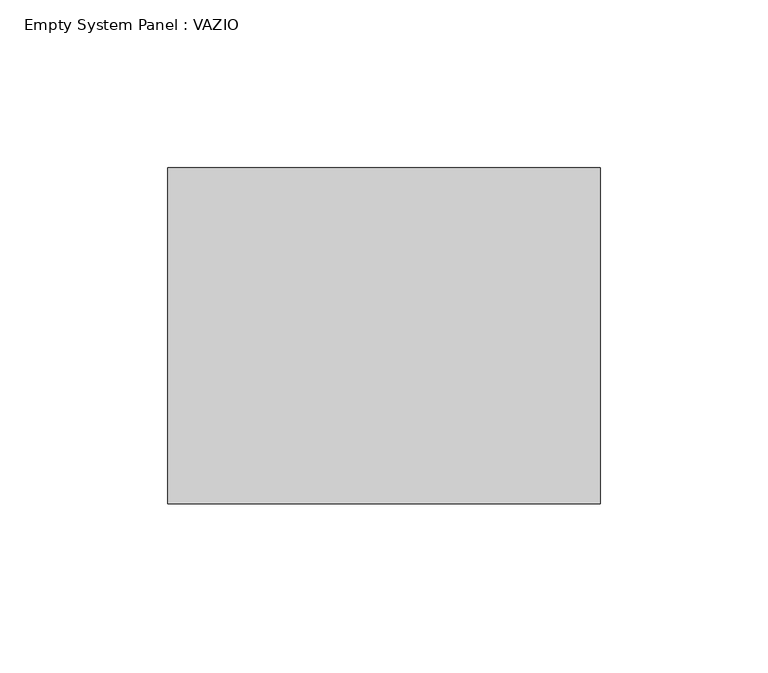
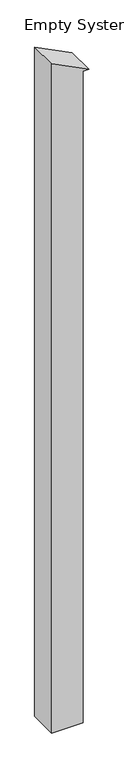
"""IFC4 building model written with IfcOpenShell, lengths in millimetres: plate geometry, Empty System Panel : VAZIO."""

import ifcopenshell
import ifcopenshell.guid

model = None  # the IFC model being written
_history = None  # IfcOwnerHistory: only IFC2X3 demands one
_inside = {}  # id of a spatial element -> (the spatial element, [elements in it])
_under = {}  # id of a project, library or spatial element -> (it, [spatial elements below it])
_declared = {}  # id of a project -> (the project, [libraries it declares])
_typed = {}  # id of a type object -> (the type object, [elements of that type])
_made_of = {}  # id of a material, layer set ... -> (it, [elements and type objects made of it])


def new_model(schema):
    """Start an empty IFC model of exactly this schema.

    Asked for "IFC4X3", IfcOpenShell would pick the latest addendum, in which some entities
    have other attributes; the version numbers below select the first issue.
    IFC2X3 requires an IfcOwnerHistory on every rooted entity: one is made here for all.
    """
    global model, _history
    if schema == "IFC4X3":
        model = ifcopenshell.file(schema_version=(4, 3, 0, 0))
    else:
        model = ifcopenshell.file(schema=schema)
    _inside.clear()
    _under.clear()
    _declared.clear()
    _typed.clear()
    _made_of.clear()
    _history = None
    if model.schema == "IFC2X3":
        org = make("IfcOrganization", Name="unknown")
        user = make(
            "IfcPersonAndOrganization",
            ThePerson=make("IfcPerson", FamilyName="unknown"),
            TheOrganization=org,
        )
        app = make(
            "IfcApplication",
            ApplicationDeveloper=org,
            Version="unknown",
            ApplicationFullName="unknown",
            ApplicationIdentifier="unknown",
        )
        _history = make(
            "IfcOwnerHistory",
            OwningUser=user,
            OwningApplication=app,
            ChangeAction="ADDED",
            CreationDate=0,
        )
    return model


def make(cls, **values):
    """One entity of the class cls with the attributes given. An attribute that is None is left unset."""
    return model.create_entity(
        cls, **{name: value for name, value in values.items() if value is not None}
    )


def rooted(cls, **values):
    """An entity with a GlobalId (a new one), such as an element, a storey or a relation."""
    return make(cls, GlobalId=ifcopenshell.guid.new(), OwnerHistory=_history, **values)


def si_unit(unit_type, name, prefix=None):
    """IfcSIUnit, for example si_unit("LENGTHUNIT", "METRE", prefix="MILLI")."""
    return make("IfcSIUnit", UnitType=unit_type, Prefix=prefix, Name=name)


def assignment(units):
    """IfcUnitAssignment: the units of a project."""
    return None if units is None else make("IfcUnitAssignment", Units=units)


def point(xyz):
    """IfcCartesianPoint."""
    return None if xyz is None else make("IfcCartesianPoint", Coordinates=xyz)


def direction(xyz):
    """IfcDirection."""
    return None if xyz is None else make("IfcDirection", DirectionRatios=xyz)


def frame(location, z_axis=None, x_axis=None):
    """IfcAxis2Placement3D, a coordinate frame: its origin and axes. An axis left out is left unset."""
    return make(
        "IfcAxis2Placement3D",
        Location=point(location),
        Axis=direction(z_axis),
        RefDirection=direction(x_axis),
    )


def frame_2d(location, x_axis=None):
    """IfcAxis2Placement2D, a coordinate frame in the plane: its origin and x axis."""
    return make(
        "IfcAxis2Placement2D", Location=point(location), RefDirection=direction(x_axis)
    )


def origin():
    """The frame at (0, 0, 0) with its axes left unset."""
    return frame((0.0, 0.0, 0.0))


def place(relative_to, where):
    """IfcLocalPlacement: puts the frame where relative to a parent placement (None: the world)."""
    return make(
        "IfcLocalPlacement", PlacementRelTo=relative_to, RelativePlacement=where
    )


def context(
    kind, dimensions, precision=None, world=None, true_north=None, identifier=None
):
    """IfcGeometricRepresentationContext, for example the 3D "Model" context."""
    return make(
        "IfcGeometricRepresentationContext",
        ContextIdentifier=identifier,
        ContextType=kind,
        CoordinateSpaceDimension=dimensions,
        Precision=precision,
        WorldCoordinateSystem=world,
        TrueNorth=true_north,
    )


def project(units=None, contexts=None):
    """IfcProject with its units and contexts."""
    return rooted(
        "IfcProject",
        Name="project",
        RepresentationContexts=contexts,
        UnitsInContext=assignment(units),
    )


def spatial(cls, under=None, at=None, **own):
    """A site, building, storey or space (cls), placed at a placement, below another one or the project."""
    s = rooted(cls, ObjectPlacement=at, **own)
    if under is not None:
        _under.setdefault(under.id(), (under, []))[1].append(s)
    return s


def polyline(points):
    """IfcPolyline through the points."""
    return make("IfcPolyline", Points=[point(p) for p in points])


def circle_curve(where, radius):
    """IfcCircle in the frame where."""
    return make("IfcCircle", Position=where, Radius=radius)


def trimmed(basis, trim1, trim2, sense, master):
    """IfcTrimmedCurve: the piece of a basis curve between two trims."""
    return make(
        "IfcTrimmedCurve",
        BasisCurve=basis,
        Trim1=trim1,
        Trim2=trim2,
        SenseAgreement=sense,
        MasterRepresentation=master,
    )


def segment(curve, same_sense, transition):
    """IfcCompositeCurveSegment."""
    return make(
        "IfcCompositeCurveSegment",
        Transition=transition,
        SameSense=same_sense,
        ParentCurve=curve,
    )


def composite_curve(segments, self_intersect=None):
    """IfcCompositeCurve: segments joined end to end."""
    return make("IfcCompositeCurve", Segments=segments, SelfIntersect=self_intersect)


def outline(outer, holes=None, kind="AREA"):
    """IfcArbitraryClosedProfileDef: a profile drawn as a closed curve; with holes, ...WithVoids."""
    if holes is None:
        return make("IfcArbitraryClosedProfileDef", ProfileType=kind, OuterCurve=outer)
    return make(
        "IfcArbitraryProfileDefWithVoids",
        ProfileType=kind,
        OuterCurve=outer,
        InnerCurves=holes,
    )


def extrude(swept, where, along, depth):
    """IfcExtrudedAreaSolid: the profile swept, set in the frame where, extruded along a direction by depth."""
    return make(
        "IfcExtrudedAreaSolid",
        SweptArea=swept,
        Position=where,
        ExtrudedDirection=direction(along),
        Depth=depth,
    )


def shape(context_of_items, identifier, shape_type, items):
    """IfcShapeRepresentation: the items that make up one representation, for example the "Body"."""
    return make(
        "IfcShapeRepresentation",
        ContextOfItems=context_of_items,
        RepresentationIdentifier=identifier,
        RepresentationType=shape_type,
        Items=items,
    )


def source(mapping_origin, context_of_items, identifier, shape_type, items):
    """IfcRepresentationMap: a shape defined once, which mapped items show again and again."""
    return make(
        "IfcRepresentationMap",
        MappingOrigin=mapping_origin,
        MappedRepresentation=shape(context_of_items, identifier, shape_type, items),
    )


def transform(
    local_origin,
    x_axis=None,
    y_axis=None,
    z_axis=None,
    scale=None,
    scale2=None,
    scale3=None,
    uniform=True,
):
    """IfcCartesianTransformationOperator3D, or its non-uniform kind. x_axis, y_axis, z_axis: its Axis1, 2, 3."""
    if uniform:
        return make(
            "IfcCartesianTransformationOperator3D",
            Axis1=direction(x_axis),
            Axis2=direction(y_axis),
            LocalOrigin=point(local_origin),
            Scale=scale,
            Axis3=direction(z_axis),
        )
    return make(
        "IfcCartesianTransformationOperator3DnonUniform",
        Axis1=direction(x_axis),
        Axis2=direction(y_axis),
        LocalOrigin=point(local_origin),
        Scale=scale,
        Axis3=direction(z_axis),
        Scale2=scale2,
        Scale3=scale3,
    )


def mapped(mapping_source, mapping_target):
    """IfcMappedItem: shows the shape of a source again, moved by a transform."""
    return make(
        "IfcMappedItem", MappingSource=mapping_source, MappingTarget=mapping_target
    )


def made_of(thing, what):
    """Note that an element or type object is made of a material, layer set ...; save() writes the relation."""
    if what is not None:
        _made_of.setdefault(what.id(), (what, []))[1].append(thing)
    return thing


def element(
    cls,
    number,
    at=None,
    inside=None,
    cuts=None,
    type_object=None,
    material=None,
    context=None,
    identifier="Body",
    shape_type=None,
    held_by="IfcProductDefinitionShape",
    body=None,
    shapes=None,
    **own,
):
    """One element of the class cls, such as IfcWall. Its Tag is "e" and its number.

    at: its placement. inside: the storey or other place that contains it. cuts: it is an
    opening in that element (IfcRelVoidsElement). A single representation is given by context,
    identifier, shape_type and body (its items); several are given by shapes. held_by: the class
    of the entity that holds the representations. save() writes the other relations.
    """
    e = rooted(cls, Tag="e%d" % number, ObjectPlacement=at, **own)
    if body is not None:
        shapes = [shape(context, identifier, shape_type, body)]
    if shapes is not None:
        e.Representation = make(held_by, Representations=shapes)
    if inside is not None:
        _inside.setdefault(inside.id(), (inside, []))[1].append(e)
    if cuts is not None:
        rooted(
            "IfcRelVoidsElement", RelatingBuildingElement=cuts, RelatedOpeningElement=e
        )
    if type_object is not None:
        _typed.setdefault(type_object.id(), (type_object, []))[1].append(e)
    return made_of(e, material)


def aggregate(whole, parts):
    """IfcRelAggregates: a whole, such as a stair, and the parts it consists of."""
    return rooted("IfcRelAggregates", RelatingObject=whole, RelatedObjects=parts)


def save(model, path):
    """Write the relations noted so far, then the file.

    IfcRelAggregates (storeys below a building ...), IfcRelContainedInSpatialStructure (elements
    in a storey), IfcRelDefinesByType, IfcRelAssociatesMaterial and IfcRelDeclares: one each for
    every whole, place, type object, material and project.
    """
    for whole, parts in _under.values():
        aggregate(whole, parts)
    for where, things in _inside.values():
        rooted(
            "IfcRelContainedInSpatialStructure",
            RelatedElements=things,
            RelatingStructure=where,
        )
    for kind, things in _typed.values():
        rooted("IfcRelDefinesByType", RelatedObjects=things, RelatingType=kind)
    for what, things in _made_of.values():
        rooted("IfcRelAssociatesMaterial", RelatedObjects=things, RelatingMaterial=what)
    for by, libraries in _declared.values():
        rooted("IfcRelDeclares", RelatingContext=by, RelatedDefinitions=libraries)
    model.write(path)


def empty_system_panel_vazio_5e425309(model_context):
    return source(origin(), model_context, "Body", "SweptSolid", [
        extrude(outline(composite_curve([segment(polyline([(0.0, -64.3902439), (0.0, 44.3902439), (2367.5530979, 44.3902439), (2367.5530979, 64.3902439)]), True, "CONTINUOUS"), segment(trimmed(circle_curve(frame_2d((-470.6496213, -1443.4146341)), 3213.8559746), [point((2367.5530979, 64.3902439))], [point((2432.3078287, -64.3902439))], False, "CARTESIAN"), True, "CONTINUOUS"), segment(polyline([(2432.3078287, -64.3902439), (0.0, -64.3902439)]), True, "CONTINUOUS")], self_intersect=False)), frame((0.0, -50.0, 0.0), z_axis=(0.0, 1.0, 0.0), x_axis=(0.0, 0.0, 1.0)), (0.0, 0.0, 1.0), 100.0),
    ])


if __name__ == "__main__":
    model = new_model("IFC4")
    model_context = context("Model", 3, world=origin())
    ifc_project = project(units=[si_unit("LENGTHUNIT", "METRE", prefix="MILLI")], contexts=[model_context])
    site = spatial("IfcSite", under=ifc_project)
    building = spatial("IfcBuilding", under=site)
    placement = place(None, origin())
    empty_system_panel_vazio_shape = empty_system_panel_vazio_5e425309(model_context)
    element("IfcPlate", 1, ObjectType="Empty System Panel : VAZIO", at=placement, inside=building, context=model_context, shape_type="MappedRepresentation", body=[
        mapped(empty_system_panel_vazio_shape, transform((0.0, 0.0, 0.0), x_axis=(1.0, 0.0, 0.0), y_axis=(0.0, 1.0, 0.0), z_axis=(0.0, 0.0, 1.0))),
    ])
    save(model, "model.ifc")
